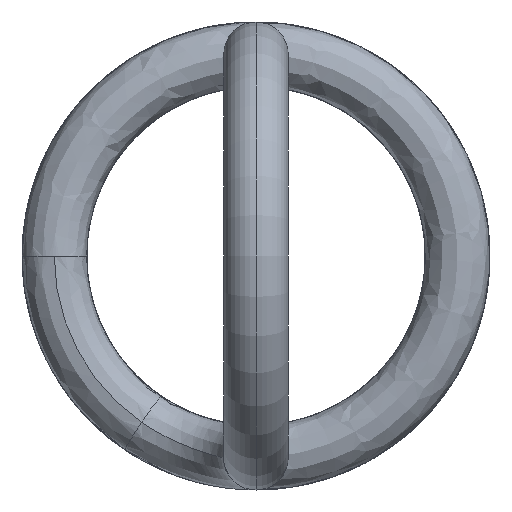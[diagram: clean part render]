
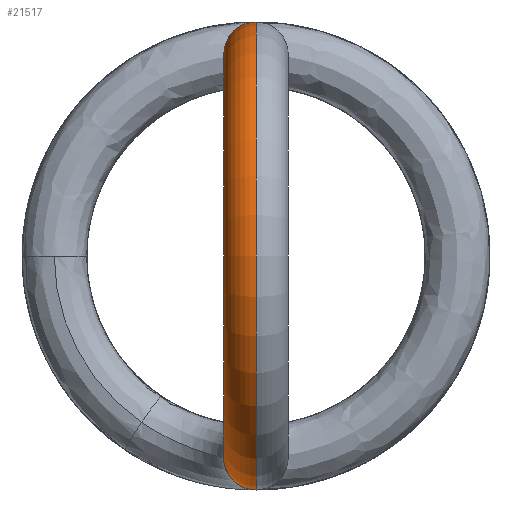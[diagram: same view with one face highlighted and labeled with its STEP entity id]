
A CAD part, front view. The second image highlights one B-rep face of the part: STEP entity #21517.
In plain terms, the highlighted toroidal (fillet/blend) face has major radius 10 mm and minor radius 1.6 mm.
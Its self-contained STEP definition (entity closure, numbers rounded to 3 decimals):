
#21299=CARTESIAN_POINT('',(0.,8.4,-10.));
#21300=DIRECTION('',(0.,-1.,0.));
#21301=DIRECTION('',(0.,0.,1.));
#21302=AXIS2_PLACEMENT_3D('',#21299,#21300,#21301);
#21307=CARTESIAN_POINT('',(0.,8.4,0.));
#21308=DIRECTION('',(-1.,0.,0.));
#21309=DIRECTION('',(0.,0.,-1.));
#21310=AXIS2_PLACEMENT_3D('',#21307,#21308,#21309);
#21454=CARTESIAN_POINT('',(0.,8.4,0.));
#21455=DIRECTION('',(-1.,0.,0.));
#21456=DIRECTION('',(0.,0.,-1.));
#21457=AXIS2_PLACEMENT_3D('',#21454,#21455,#21456);
#21470=CARTESIAN_POINT('',(0.,16.06,6.428));
#21471=DIRECTION('',(0.,0.643,-0.766));
#21472=DIRECTION('',(0.,-0.766,-0.643));
#21473=AXIS2_PLACEMENT_3D('',#21470,#21471,#21472);
#21486=CARTESIAN_POINT('',(0.,8.4,-11.6));
#21487=CARTESIAN_POINT('',(0.,8.4,-8.4));
#21488=VERTEX_POINT('',#21486);
#21489=VERTEX_POINT('',#21487);
#21490=CARTESIAN_POINT('',(0.,17.286,7.456));
#21491=CARTESIAN_POINT('',(0.,14.835,5.399));
#21492=VERTEX_POINT('',#21490);
#21493=VERTEX_POINT('',#21491);
#21502=CARTESIAN_POINT('',(0.,8.4,0.));
#21503=DIRECTION('',(-1.,0.,0.));
#21504=DIRECTION('',(0.,0.,1.));
#21505=AXIS2_PLACEMENT_3D('',#21502,#21503,#21504);
#21506=TOROIDAL_SURFACE('',#21505,10.,1.6);
#21508=ORIENTED_EDGE('',*,*,#21507,.F.);
#21510=ORIENTED_EDGE('',*,*,#21509,.T.);
#21512=ORIENTED_EDGE('',*,*,#21511,.T.);
#21514=ORIENTED_EDGE('',*,*,#21513,.F.);
#21515=EDGE_LOOP('',(#21508,#21510,#21512,#21514));
#21516=FACE_OUTER_BOUND('',#21515,.F.);
#21303=CIRCLE('',#21302,1.6);
#21311=CIRCLE('',#21310,8.4);
#21458=CIRCLE('',#21457,11.6);
#21474=CIRCLE('',#21473,1.6);
#21507=EDGE_CURVE('',#21489,#21488,#21303,.T.);
#21509=EDGE_CURVE('',#21489,#21493,#21311,.T.);
#21511=EDGE_CURVE('',#21493,#21492,#21474,.T.);
#21513=EDGE_CURVE('',#21488,#21492,#21458,.T.);
#21517=ADVANCED_FACE('',(#21516),#21506,.T.);
